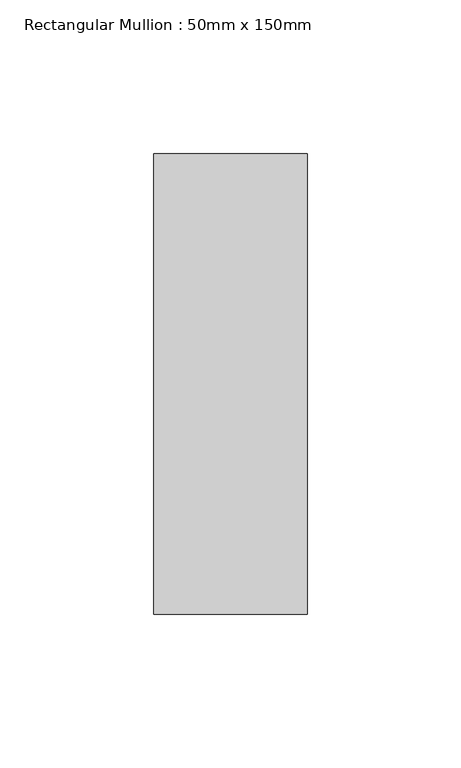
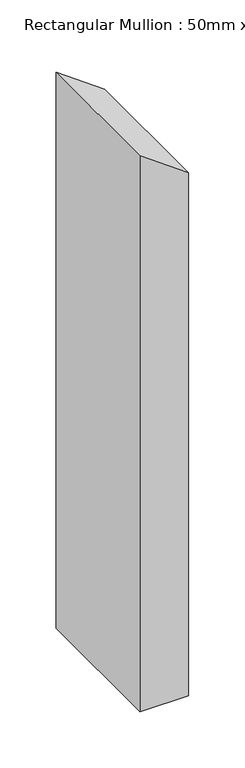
"""IFC4 building model written with IfcOpenShell, lengths in millimetres: member geometry, Rectangular Mullion : 50mm x 150mm."""

from ifc_helpers import new_model, si_unit, frame, origin, place, context, project, spatial, polyline, outline, extrude, source, transform, mapped, element, save


def rectangular_mullion_50mm_x_150mm_f7fe99b2(model_context):
    return source(origin(), model_context, "Body", "SweptSolid", [
        extrude(outline(polyline([(-79.4622779, 25.0), (-43.6001645, -25.0), (-648.303776, -25.0), (-648.303776, 25.0), (-79.4622779, 25.0)])), frame((0.0, -75.0, 0.0), z_axis=(0.0, 1.0, 0.0), x_axis=(0.0, 0.0, 1.0)), (0.0, 0.0, 1.0), 150.0),
    ])


if __name__ == "__main__":
    model = new_model("IFC4")
    model_context = context("Model", 3, world=origin())
    ifc_project = project(units=[si_unit("LENGTHUNIT", "METRE", prefix="MILLI")], contexts=[model_context])
    site = spatial("IfcSite", under=ifc_project)
    building = spatial("IfcBuilding", under=site)
    placement = place(None, origin())
    rectangular_mullion_50mm_x_150mm_shape = rectangular_mullion_50mm_x_150mm_f7fe99b2(model_context)
    element("IfcMember", 1, ObjectType="Rectangular Mullion : 50mm x 150mm", at=placement, inside=building, context=model_context, shape_type="MappedRepresentation", body=[
        mapped(rectangular_mullion_50mm_x_150mm_shape, transform((0.0, 0.0, 0.0), x_axis=(1.0, 0.0, 0.0), y_axis=(0.0, 1.0, 0.0), z_axis=(0.0, 0.0, 1.0))),
    ])
    save(model, "model.ifc")
